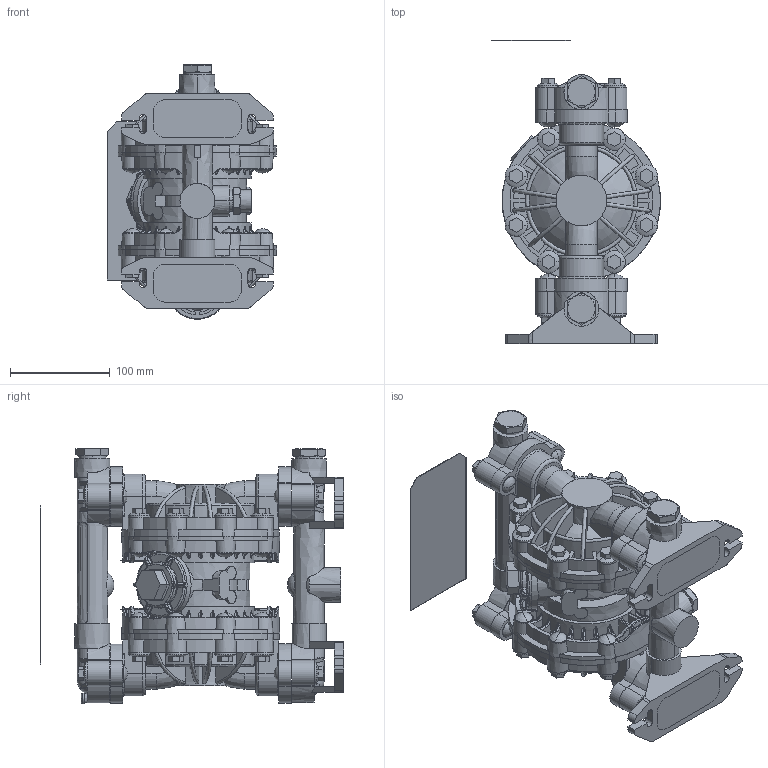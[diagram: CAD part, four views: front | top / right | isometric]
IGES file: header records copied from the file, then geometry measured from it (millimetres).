
Start section:  PTC IGES file: 241564-en-v.igs
Global section: file name: 241564-en-v.igs; native system: Creo Parametric by PTC Inc.; preprocessor: 2019030; author: qusrh3; organization: Unknown; date: 20191231.161656; units: inch
Bounding box: 170.01 x 304.8 x 256.86 mm (x, y, z)
Surface area: 590855.9 mm2 (no closed solid volume)
Topology: 0 solids, 0 shells, 2764 faces, 15255 edges, 15207 vertices
Faces by surface type: bspline 1432, revolution 1306, extrusion 26
